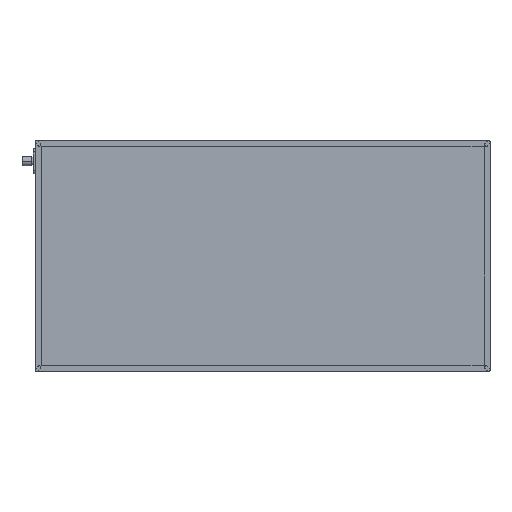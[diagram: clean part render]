
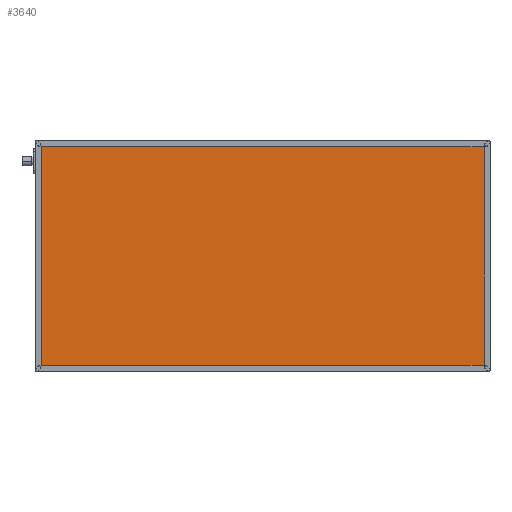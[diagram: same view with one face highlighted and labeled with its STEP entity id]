
A CAD part, top view. The second image highlights one B-rep face of the part: STEP entity #3640.
In plain terms, the highlighted planar face has unit normal (0, 0, 1).
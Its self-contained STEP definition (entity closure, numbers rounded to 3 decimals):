
#304 = PLANE ( 'NONE',  #16490 ) ;
#835 = ORIENTED_EDGE ( 'NONE', *, *, #7340, .T. ) ;
#975 = CARTESIAN_POINT ( 'NONE',  ( 4., 4., 41.85 ) ) ;
#1270 = CARTESIAN_POINT ( 'NONE',  ( 596., 0., 41.85 ) ) ;
#1885 = CARTESIAN_POINT ( 'NONE',  ( 0., 296., 41.85 ) ) ;
#1958 = EDGE_CURVE ( 'NONE', #12547, #11432, #6280, .T. ) ;
#2050 = VERTEX_POINT ( 'NONE', #6856 ) ;
#3640 = ADVANCED_FACE ( 'NONE', ( #8286 ), #304, .F. ) ;
#5314 = CARTESIAN_POINT ( 'NONE',  ( 596., 296., 41.85 ) ) ;
#5562 = ORIENTED_EDGE ( 'NONE', *, *, #10805, .T. ) ;
#5599 = DIRECTION ( 'NONE',  ( 0., 0., -1. ) ) ;
#6280 = LINE ( 'NONE', #8867, #15103 ) ;
#6728 = LINE ( 'NONE', #1270, #10642 ) ;
#6764 = EDGE_LOOP ( 'NONE', ( #5562, #13468, #13201, #835 ) ) ;
#6856 = CARTESIAN_POINT ( 'NONE',  ( 596., 4., 41.85 ) ) ;
#7086 = LINE ( 'NONE', #1885, #13224 ) ;
#7340 = EDGE_CURVE ( 'NONE', #11432, #2050, #14661, .T. ) ;
#7545 = CARTESIAN_POINT ( 'NONE',  ( 4., 296., 41.85 ) ) ;
#8286 = FACE_OUTER_BOUND ( 'NONE', #6764, .T. ) ;
#8867 = CARTESIAN_POINT ( 'NONE',  ( 4., 0., 41.85 ) ) ;
#10492 = CARTESIAN_POINT ( 'NONE',  ( 0., 4., 41.85 ) ) ;
#10642 = VECTOR ( 'NONE', #11994, 1000. ) ;
#10805 = EDGE_CURVE ( 'NONE', #2050, #15512, #6728, .T. ) ;
#11432 = VERTEX_POINT ( 'NONE', #975 ) ;
#11994 = DIRECTION ( 'NONE',  ( 0., 1., 0. ) ) ;
#12003 = VECTOR ( 'NONE', #13096, 1000. ) ;
#12356 = DIRECTION ( 'NONE',  ( -1., 0., 0. ) ) ;
#12547 = VERTEX_POINT ( 'NONE', #7545 ) ;
#13096 = DIRECTION ( 'NONE',  ( 1., 0., 0. ) ) ;
#13201 = ORIENTED_EDGE ( 'NONE', *, *, #1958, .T. ) ;
#13224 = VECTOR ( 'NONE', #12356, 1000. ) ;
#13468 = ORIENTED_EDGE ( 'NONE', *, *, #16800, .T. ) ;
#13563 = CARTESIAN_POINT ( 'NONE',  ( 0., 0., 41.85 ) ) ;
#14661 = LINE ( 'NONE', #10492, #12003 ) ;
#15103 = VECTOR ( 'NONE', #16511, 1000. ) ;
#15512 = VERTEX_POINT ( 'NONE', #5314 ) ;
#16160 = DIRECTION ( 'NONE',  ( -1., 0., 0. ) ) ;
#16490 = AXIS2_PLACEMENT_3D ( 'NONE', #13563, #5599, #16160 ) ;
#16511 = DIRECTION ( 'NONE',  ( 0., -1., 0. ) ) ;
#16800 = EDGE_CURVE ( 'NONE', #15512, #12547, #7086, .T. ) ;
